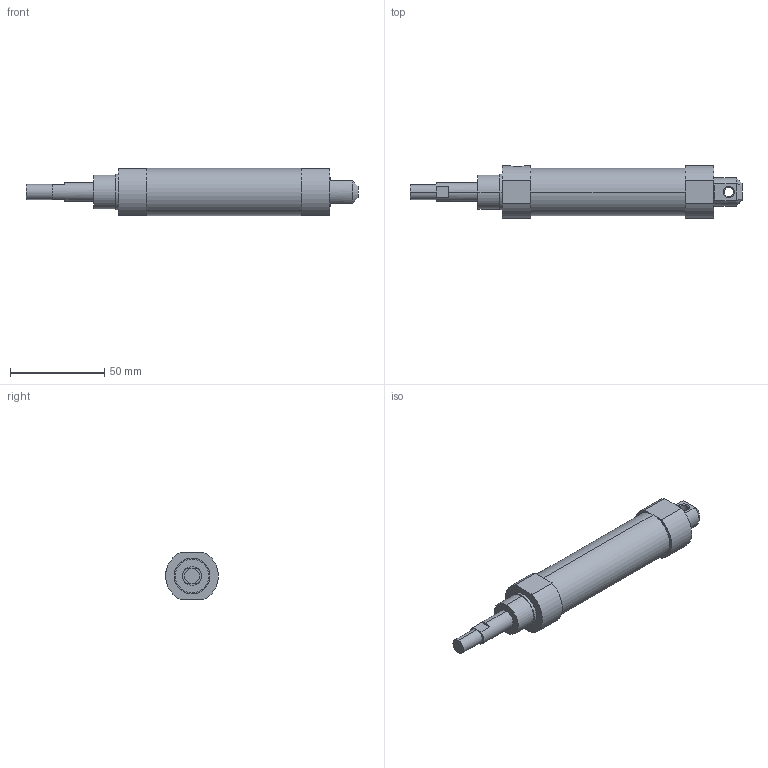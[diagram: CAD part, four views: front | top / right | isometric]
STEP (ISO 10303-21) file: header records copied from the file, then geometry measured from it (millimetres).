
FILE_DESCRIPTION (( 'STEP AP203' ), '1' );
FILE_NAME ('J#0-20-15-C.STEP', '2016-03-08T06:14:51', ( '' ), ( '' ), 'SwSTEP 2.0', 'SolidWorks 2014', '' );
FILE_SCHEMA (( 'CONFIG_CONTROL_DESIGN' ));
Length unit declared in the file: millimetre
Products named in the file (1): J#0-20-15-C
Bounding box: 176 x 27.95 x 25 mm (x, y, z)
Volume: 64892.7 mm3; surface area: 13303.1 mm2
Topology: 1 solids, 1 shells, 53 faces, 118 edges, 72 vertices
Faces by surface type: plane 27, cylinder 20, cone 6
Entity records: 1611 total; most frequent: CARTESIAN_POINT 322, DIRECTION 272, ORIENTED_EDGE 236, EDGE_CURVE 118, AXIS2_PLACEMENT_3D 106, VERTEX_POINT 72, EDGE_LOOP 60, VECTOR 60
